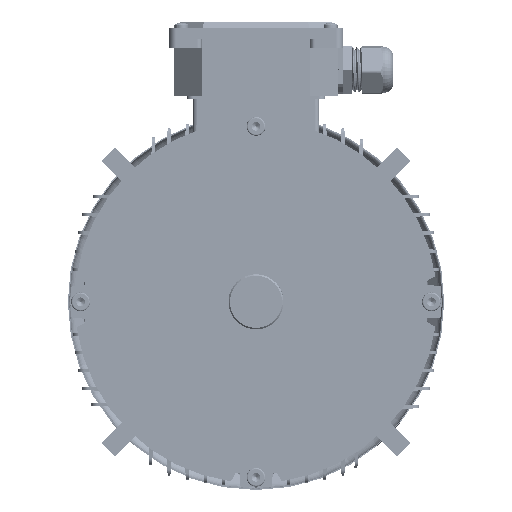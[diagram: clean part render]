
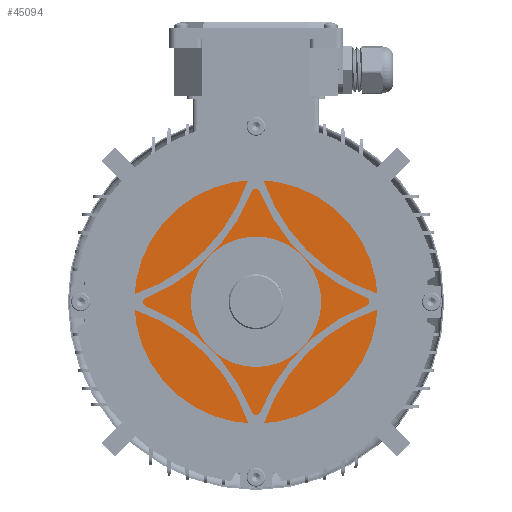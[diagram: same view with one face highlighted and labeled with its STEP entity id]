
A CAD part, front view. The second image highlights one B-rep face of the part: STEP entity #45094.
In plain terms, the highlighted planar face has unit normal (0, -1, 0).
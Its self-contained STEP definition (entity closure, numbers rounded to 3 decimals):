
#2698 = EDGE_CURVE ( 'NONE', #49459, #96133, #43875, .T. ) ;
#7882 = EDGE_CURVE ( 'NONE', #27804, #35573, #45324, .T. ) ;
#12361 = ORIENTED_EDGE ( 'NONE', *, *, #27387, .T. ) ;
#18391 = ORIENTED_EDGE ( 'NONE', *, *, #7882, .T. ) ;
#23022 = AXIS2_PLACEMENT_3D ( 'NONE', #112481, #122788, #61630 ) ;
#27387 = EDGE_CURVE ( 'NONE', #35573, #27804, #70030, .T. ) ;
#27804 = VERTEX_POINT ( 'NONE', #79716 ) ;
#32309 = FACE_BOUND ( 'NONE', #49407, .T. ) ;
#33180 = CARTESIAN_POINT ( 'NONE',  ( 0., 11.146, 0. ) ) ;
#35573 = VERTEX_POINT ( 'NONE', #83167 ) ;
#40576 = ORIENTED_EDGE ( 'NONE', *, *, #116251, .F. ) ;
#40813 = CARTESIAN_POINT ( 'NONE',  ( 0., 11.146, 45. ) ) ;
#41007 = PLANE ( 'NONE',  #23022 ) ;
#43530 = DIRECTION ( 'NONE',  ( 0., 0., -1. ) ) ;
#43875 = CIRCLE ( 'NONE', #113391, 45. ) ;
#45094 = ADVANCED_FACE ( 'NONE', ( #83613, #32309 ), #41007, .T. ) ;
#45233 = DIRECTION ( 'NONE',  ( 0., -1., 0. ) ) ;
#45324 = CIRCLE ( 'NONE', #67610, 84. ) ;
#49407 = EDGE_LOOP ( 'NONE', ( #61772, #40576 ) ) ;
#49459 = VERTEX_POINT ( 'NONE', #114116 ) ;
#54890 = CARTESIAN_POINT ( 'NONE',  ( 0., 11.146, 0. ) ) ;
#61292 = DIRECTION ( 'NONE',  ( 0., -1., 0. ) ) ;
#61630 = DIRECTION ( 'NONE',  ( 0., 0., -1. ) ) ;
#61772 = ORIENTED_EDGE ( 'NONE', *, *, #2698, .F. ) ;
#65234 = DIRECTION ( 'NONE',  ( 0., 0., -1. ) ) ;
#67610 = AXIS2_PLACEMENT_3D ( 'NONE', #122462, #61292, #132730 ) ;
#67775 = AXIS2_PLACEMENT_3D ( 'NONE', #54890, #126357, #65234 ) ;
#70030 = CIRCLE ( 'NONE', #113903, 84. ) ;
#79716 = CARTESIAN_POINT ( 'NONE',  ( 0., 11.146, 84. ) ) ;
#83167 = CARTESIAN_POINT ( 'NONE',  ( 0., 11.146, -84. ) ) ;
#83613 = FACE_OUTER_BOUND ( 'NONE', #106994, .T. ) ;
#96133 = VERTEX_POINT ( 'NONE', #40813 ) ;
#104712 = DIRECTION ( 'NONE',  ( 0., -1., 0. ) ) ;
#106413 = CARTESIAN_POINT ( 'NONE',  ( 0., 11.146, 0. ) ) ;
#106994 = EDGE_LOOP ( 'NONE', ( #12361, #18391 ) ) ;
#112481 = CARTESIAN_POINT ( 'NONE',  ( 84., 11.146, 0. ) ) ;
#113391 = AXIS2_PLACEMENT_3D ( 'NONE', #106413, #45233, #116707 ) ;
#113903 = AXIS2_PLACEMENT_3D ( 'NONE', #33180, #104712, #43530 ) ;
#114116 = CARTESIAN_POINT ( 'NONE',  ( 0., 11.146, -45. ) ) ;
#116251 = EDGE_CURVE ( 'NONE', #96133, #49459, #118442, .T. ) ;
#116707 = DIRECTION ( 'NONE',  ( 0., 0., -1. ) ) ;
#118442 = CIRCLE ( 'NONE', #67775, 45. ) ;
#122462 = CARTESIAN_POINT ( 'NONE',  ( 0., 11.146, 0. ) ) ;
#122788 = DIRECTION ( 'NONE',  ( 0., -1., 0. ) ) ;
#126357 = DIRECTION ( 'NONE',  ( 0., -1., 0. ) ) ;
#132730 = DIRECTION ( 'NONE',  ( 0., 0., -1. ) ) ;
